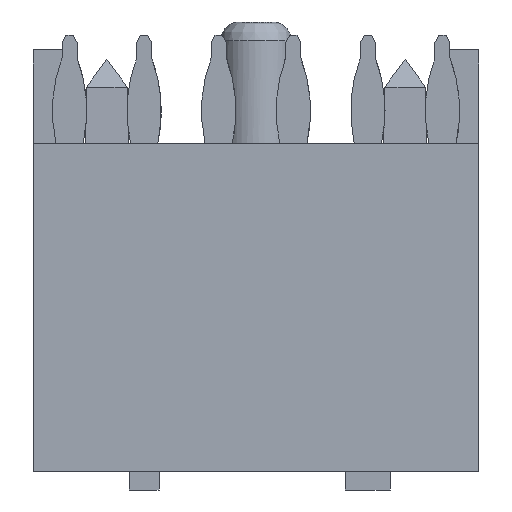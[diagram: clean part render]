
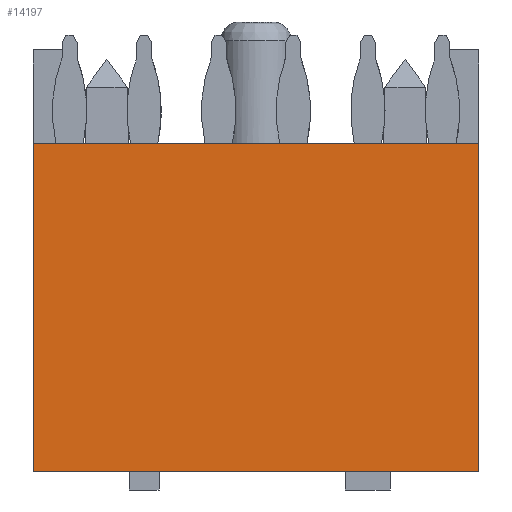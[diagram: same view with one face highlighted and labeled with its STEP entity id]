
A CAD part, left-side view. The second image highlights one B-rep face of the part: STEP entity #14197.
In plain terms, the highlighted planar face has unit normal (-1, 0, 0) as drawn and (1, 0, 0) by its records, which use the part's own axes.
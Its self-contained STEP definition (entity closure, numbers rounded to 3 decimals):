
#171 = EDGE_CURVE ( 'NONE', #15437, #15426, #12828, .T. ) ;
#176 = EDGE_CURVE ( 'NONE', #15437, #15415, #12856, .T. ) ;
#180 = EDGE_CURVE ( 'NONE', #15424, #15426, #12851, .T. ) ;
#6551 = VECTOR ( 'NONE', #12871, 1000. ) ;
#6554 = VECTOR ( 'NONE', #12859, 1000. ) ;
#7004 = VECTOR ( 'NONE', #12844, 1000. ) ;
#7973 = LINE ( 'NONE', #7974, #10593 ) ;
#7974 = CARTESIAN_POINT ( 'NONE',  ( 20.5, 0., 0. ) ) ;
#7975 = DIRECTION ( 'NONE',  ( 0., 0., 1. ) ) ;
#9571 = ORIENTED_EDGE ( 'NONE', *, *, #171, .F. ) ;
#9572 = ORIENTED_EDGE ( 'NONE', *, *, #180, .T. ) ;
#9573 = ORIENTED_EDGE ( 'NONE', *, *, #13670, .T. ) ;
#9574 = ORIENTED_EDGE ( 'NONE', *, *, #176, .T. ) ;
#9765 = EDGE_LOOP ( 'NONE', ( #9574, #9573, #9572, #9571 ) ) ;
#10593 = VECTOR ( 'NONE', #7975, 1000. ) ;
#11146 = AXIS2_PLACEMENT_3D ( 'NONE', #11733, #11739, #11740 ) ;
#11283 = CARTESIAN_POINT ( 'NONE',  ( 20.5, 0., -5.975 ) ) ;
#11292 = CARTESIAN_POINT ( 'NONE',  ( 20.5, 0., 5.975 ) ) ;
#11294 = CARTESIAN_POINT ( 'NONE',  ( 20.5, -8.8, 5.975 ) ) ;
#11305 = CARTESIAN_POINT ( 'NONE',  ( 20.5, -8.8, -5.975 ) ) ;
#11731 = PLANE ( 'NONE',  #11146 ) ;
#11733 = CARTESIAN_POINT ( 'NONE',  ( 20.5, -8.8, -5.975 ) ) ;
#11737 = FACE_OUTER_BOUND ( 'NONE', #9765, .T. ) ;
#11739 = DIRECTION ( 'NONE',  ( 1., 0., 0. ) ) ;
#11740 = DIRECTION ( 'NONE',  ( 0., 1., 0. ) ) ;
#12828 = LINE ( 'NONE', #12842, #7004 ) ;
#12842 = CARTESIAN_POINT ( 'NONE',  ( 20.5, -8.8, 0. ) ) ;
#12844 = DIRECTION ( 'NONE',  ( 0., 0., 1. ) ) ;
#12851 = LINE ( 'NONE', #12870, #6551 ) ;
#12856 = LINE ( 'NONE', #12858, #6554 ) ;
#12858 = CARTESIAN_POINT ( 'NONE',  ( 20.5, -4.4, -5.975 ) ) ;
#12859 = DIRECTION ( 'NONE',  ( 0., 1., 0. ) ) ;
#12870 = CARTESIAN_POINT ( 'NONE',  ( 20.5, -4.4, 5.975 ) ) ;
#12871 = DIRECTION ( 'NONE',  ( 0., -1., 0. ) ) ;
#13670 = EDGE_CURVE ( 'NONE', #15415, #15424, #7973, .T. ) ;
#14197 = ADVANCED_FACE ( 'NONE', ( #11737 ), #11731, .T. ) ;
#15415 = VERTEX_POINT ( 'NONE', #11283 ) ;
#15424 = VERTEX_POINT ( 'NONE', #11292 ) ;
#15426 = VERTEX_POINT ( 'NONE', #11294 ) ;
#15437 = VERTEX_POINT ( 'NONE', #11305 ) ;
